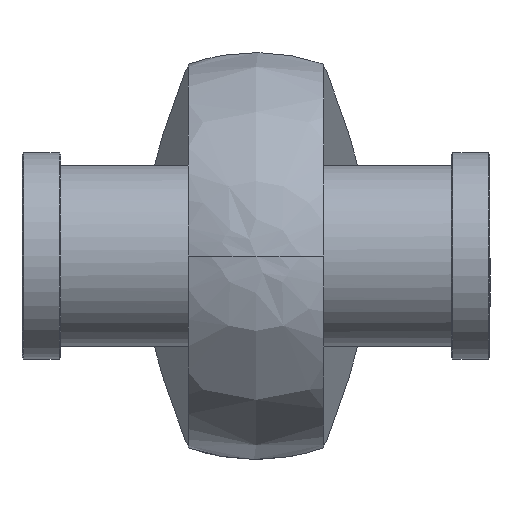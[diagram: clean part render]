
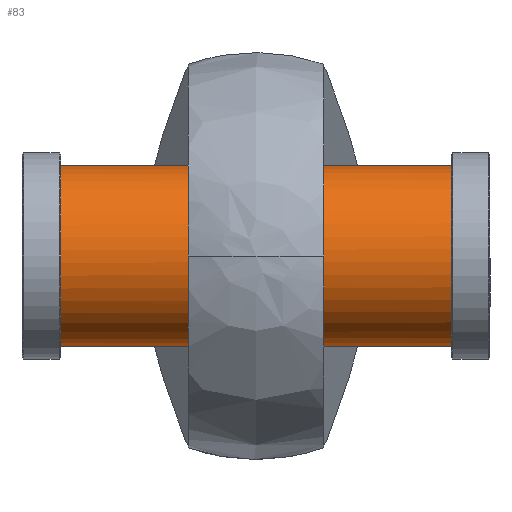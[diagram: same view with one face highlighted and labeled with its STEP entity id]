
A CAD part, left-side view. The second image highlights one B-rep face of the part: STEP entity #83.
In plain terms, the highlighted cylindrical face has radius 28 mm (diameter 56 mm), a full revolution.
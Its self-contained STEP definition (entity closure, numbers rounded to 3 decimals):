
#83=ADVANCED_FACE('',(#157),#1209,.T.);
#157=FACE_OUTER_BOUND('',#238,.T.);
#238=EDGE_LOOP('',(#506,#507,#508,#509));
#506=ORIENTED_EDGE('',*,*,#772,.T.);
#507=ORIENTED_EDGE('',*,*,#774,.T.);
#508=ORIENTED_EDGE('',*,*,#773,.T.);
#509=ORIENTED_EDGE('',*,*,#774,.F.);
#772=EDGE_CURVE('',#1124,#1124,#980,.T.);
#773=EDGE_CURVE('',#1125,#1125,#981,.T.);
#774=EDGE_CURVE('',#1124,#1125,#894,.T.);
#894=B_SPLINE_CURVE_WITH_KNOTS('',1,(#2243,#2244),.UNSPECIFIED.,.F.,.F.,
(2,2),(12.215,133.164),.UNSPECIFIED.);
#980=(
BOUNDED_CURVE()
B_SPLINE_CURVE(2,(#2225,#2226,#2227,#2228,#2229,#2230,#2231,#2232,#2233),
 .UNSPECIFIED.,.T.,.F.)
B_SPLINE_CURVE_WITH_KNOTS((3,2,2,2,3),(0.,43.982,87.965,
131.947,175.929),.UNSPECIFIED.)
CURVE()
GEOMETRIC_REPRESENTATION_ITEM()
RATIONAL_B_SPLINE_CURVE((1.,0.707,1.,0.707,1.,0.707,
1.,0.707,1.))
REPRESENTATION_ITEM('')
);
#981=(
BOUNDED_CURVE()
B_SPLINE_CURVE(2,(#2234,#2235,#2236,#2237,#2238,#2239,#2240,#2241,#2242),
 .UNSPECIFIED.,.T.,.F.)
B_SPLINE_CURVE_WITH_KNOTS((3,2,2,2,3),(0.,43.982,87.965,
131.947,175.929),.UNSPECIFIED.)
CURVE()
GEOMETRIC_REPRESENTATION_ITEM()
RATIONAL_B_SPLINE_CURVE((1.,0.707,1.,0.707,1.,0.707,
1.,0.707,1.))
REPRESENTATION_ITEM('')
);
#1124=VERTEX_POINT('',#2177);
#1125=VERTEX_POINT('',#2178);
#1209=CYLINDRICAL_SURFACE('',#1361,28.);
#1361=AXIS2_PLACEMENT_3D('',#2167,#1407,$);
#1407=DIRECTION('',(0.,-1.,0.));
#2167=CARTESIAN_POINT('',(0.,0.,0.));
#2177=CARTESIAN_POINT('',(28.,60.475,0.));
#2178=CARTESIAN_POINT('',(28.,-60.475,0.));
#2225=CARTESIAN_POINT('',(28.,60.475,0.));
#2226=CARTESIAN_POINT('',(28.,60.475,28.));
#2227=CARTESIAN_POINT('',(0.,60.475,28.));
#2228=CARTESIAN_POINT('',(-28.,60.475,28.));
#2229=CARTESIAN_POINT('',(-28.,60.475,0.));
#2230=CARTESIAN_POINT('',(-28.,60.475,-28.));
#2231=CARTESIAN_POINT('',(0.,60.475,-28.));
#2232=CARTESIAN_POINT('',(28.,60.475,-28.));
#2233=CARTESIAN_POINT('',(28.,60.475,0.));
#2234=CARTESIAN_POINT('',(28.,-60.475,0.));
#2235=CARTESIAN_POINT('',(28.,-60.475,-28.));
#2236=CARTESIAN_POINT('',(0.,-60.475,-28.));
#2237=CARTESIAN_POINT('',(-28.,-60.475,-28.));
#2238=CARTESIAN_POINT('',(-28.,-60.475,0.));
#2239=CARTESIAN_POINT('',(-28.,-60.475,28.));
#2240=CARTESIAN_POINT('',(0.,-60.475,28.));
#2241=CARTESIAN_POINT('',(28.,-60.475,28.));
#2242=CARTESIAN_POINT('',(28.,-60.475,0.));
#2243=CARTESIAN_POINT('',(28.,60.475,0.));
#2244=CARTESIAN_POINT('',(28.,-60.475,0.));
